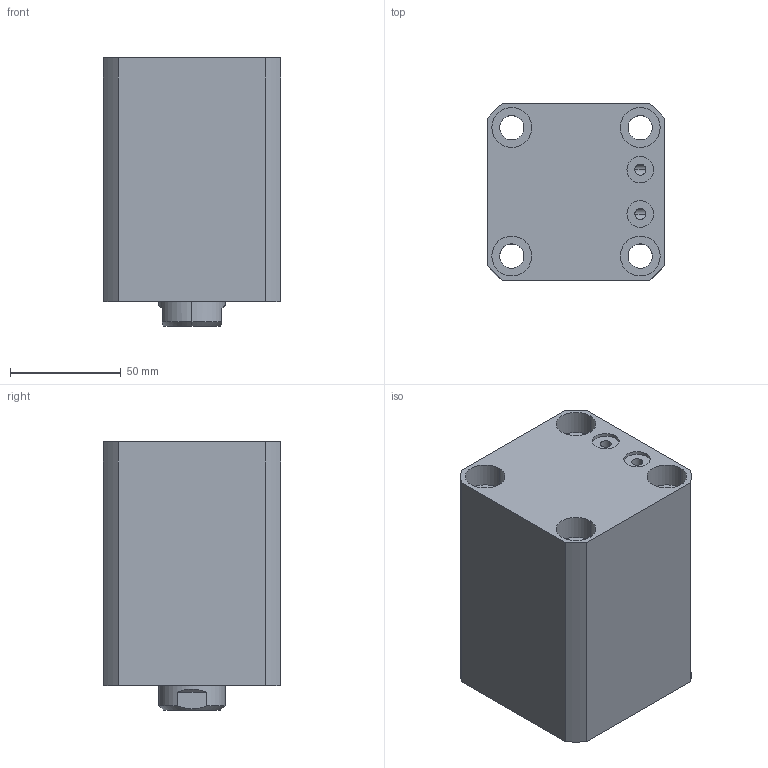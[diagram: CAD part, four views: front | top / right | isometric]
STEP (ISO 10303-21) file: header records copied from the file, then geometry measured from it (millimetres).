
FILE_DESCRIPTION (( 'STEP AP203' ), '1' );
FILE_NAME ('CHTB-SDMB50-5N.STEP', '2018-05-19T05:50:35', ( '' ), ( '' ), 'SwSTEP 2.0', 'SolidWorks 2015', '' );
FILE_SCHEMA (( 'CONFIG_CONTROL_DESIGN' ));
Length unit declared in the file: millimetre
Products named in the file (5): 活塞杆SDMB50-50N; M6; CHTB-SDMB50-5N; 掛极SDMB50-50N; CHTM-SDMA50QG
Assembly tree (5 placements, depth 2):
  CHTB-SDMB50-5N
    掛极SDMB50-50N
    活塞杆SDMB50-50N
    CHTM-SDMA50QG
    M6  x2
Bounding box: 80 x 80 x 121 mm (x, y, z)
Volume: 574053 mm3; surface area: 113619.8 mm2
Topology: 5 solids, 5 shells, 263 faces, 693 edges, 458 vertices
Faces by surface type: cylinder 135, plane 55, cone 31, bspline 26, torus 16
Entity records: 13963 total; most frequent: CARTESIAN_POINT 8102, ORIENTED_EDGE 1188, DIRECTION 1016, EDGE_CURVE 594, AXIS2_PLACEMENT_3D 416, VERTEX_POINT 397, EDGE_LOOP 269, FACE_OUTER_BOUND 228
